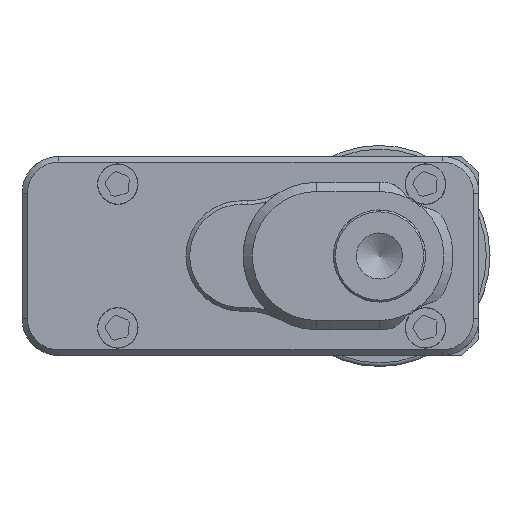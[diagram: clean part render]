
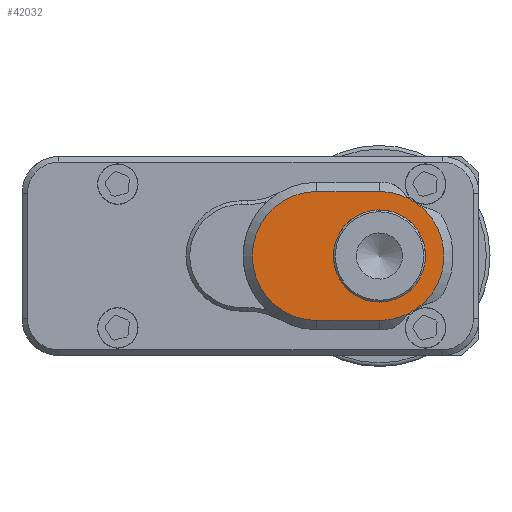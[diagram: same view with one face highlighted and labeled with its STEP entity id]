
A CAD part, front view. The second image highlights one B-rep face of the part: STEP entity #42032.
In plain terms, the highlighted planar face has unit normal (0, -1, 0).
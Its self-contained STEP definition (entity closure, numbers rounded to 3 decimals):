
#832 = CARTESIAN_POINT ( 'NONE',  ( 8.68, -13.6, -3.07 ) ) ;
#1598 = CARTESIAN_POINT ( 'NONE',  ( 7., -13.6, -3.5 ) ) ;
#2176 = VECTOR ( 'NONE', #18946, 1000. ) ;
#2962 = AXIS2_PLACEMENT_3D ( 'NONE', #26132, #22062, #39920 ) ;
#3370 = CARTESIAN_POINT ( 'NONE',  ( 9.089, -13.6, -2.808 ) ) ;
#3400 = LINE ( 'NONE', #37129, #39479 ) ;
#3536 = DIRECTION ( 'NONE',  ( 0., -1., 0. ) ) ;
#3788 = AXIS2_PLACEMENT_3D ( 'NONE', #40095, #27189, #9087 ) ;
#3826 = DIRECTION ( 'NONE',  ( 0., -1., 0. ) ) ;
#4204 = DIRECTION ( 'NONE',  ( 0., 0., 1. ) ) ;
#4464 = CARTESIAN_POINT ( 'NONE',  ( 3.6, -13.6, 3.5 ) ) ;
#4948 = AXIS2_PLACEMENT_3D ( 'NONE', #28392, #11641, #42175 ) ;
#5074 = ORIENTED_EDGE ( 'NONE', *, *, #17045, .T. ) ;
#5149 = CARTESIAN_POINT ( 'NONE',  ( 3.6, -13.6, 3.5 ) ) ;
#6283 = VERTEX_POINT ( 'NONE', #832 ) ;
#6343 = EDGE_LOOP ( 'NONE', ( #38590, #5074, #29555, #18157, #38045, #10866, #6662, #12478 ) ) ;
#6357 = DIRECTION ( 'NONE',  ( 1., 0., 0. ) ) ;
#6662 = ORIENTED_EDGE ( 'NONE', *, *, #6908, .T. ) ;
#6739 = CARTESIAN_POINT ( 'NONE',  ( 10.633, -13.6, -5.668 ) ) ;
#6872 = AXIS2_PLACEMENT_3D ( 'NONE', #10598, #3826, #41813 ) ;
#6908 = EDGE_CURVE ( 'NONE', #17867, #29491, #3400, .T. ) ;
#6931 = PLANE ( 'NONE',  #32618 ) ;
#7482 = VERTEX_POINT ( 'NONE', #4464 ) ;
#9087 = DIRECTION ( 'NONE',  ( 0., 0., 1. ) ) ;
#10191 = ORIENTED_EDGE ( 'NONE', *, *, #25438, .F. ) ;
#10310 = CARTESIAN_POINT ( 'NONE',  ( 9.089, -13.6, 2.808 ) ) ;
#10598 = CARTESIAN_POINT ( 'NONE',  ( 7., -13.6, 0. ) ) ;
#10866 = ORIENTED_EDGE ( 'NONE', *, *, #31291, .T. ) ;
#11641 = DIRECTION ( 'NONE',  ( 0., -1., 0. ) ) ;
#12173 = CIRCLE ( 'NONE', #4948, 2.5 ) ;
#12189 = CIRCLE ( 'NONE', #41791, 3.25 ) ;
#12450 = CIRCLE ( 'NONE', #3788, 3.25 ) ;
#12478 = ORIENTED_EDGE ( 'NONE', *, *, #42184, .T. ) ;
#13345 = CIRCLE ( 'NONE', #6872, 3.5 ) ;
#13854 = VERTEX_POINT ( 'NONE', #3370 ) ;
#14616 = FACE_BOUND ( 'NONE', #17028, .T. ) ;
#17028 = EDGE_LOOP ( 'NONE', ( #10191 ) ) ;
#17045 = EDGE_CURVE ( 'NONE', #13854, #39886, #13345, .T. ) ;
#17108 = FACE_OUTER_BOUND ( 'NONE', #6343, .T. ) ;
#17337 = CARTESIAN_POINT ( 'NONE',  ( 7., -13.6, 0. ) ) ;
#17344 = CARTESIAN_POINT ( 'NONE',  ( 7., -13.6, 0. ) ) ;
#17867 = VERTEX_POINT ( 'NONE', #19240 ) ;
#18157 = ORIENTED_EDGE ( 'NONE', *, *, #36232, .T. ) ;
#18453 = DIRECTION ( 'NONE',  ( 0., 0., 1. ) ) ;
#18946 = DIRECTION ( 'NONE',  ( -1., 0., 0. ) ) ;
#19240 = CARTESIAN_POINT ( 'NONE',  ( 3.6, -13.6, -3.5 ) ) ;
#19541 = EDGE_CURVE ( 'NONE', #6283, #13854, #12189, .T. ) ;
#20322 = DIRECTION ( 'NONE',  ( 0., 1., 0. ) ) ;
#20562 = VERTEX_POINT ( 'NONE', #26588 ) ;
#20729 = DIRECTION ( 'NONE',  ( 0., -1., 0. ) ) ;
#20732 = CARTESIAN_POINT ( 'NONE',  ( 3.6, -13.6, 0. ) ) ;
#22062 = DIRECTION ( 'NONE',  ( 0., -1., 0. ) ) ;
#24522 = CIRCLE ( 'NONE', #38243, 3.5 ) ;
#25438 = EDGE_CURVE ( 'NONE', #33024, #33024, #12173, .T. ) ;
#25730 = LINE ( 'NONE', #5149, #2176 ) ;
#25851 = CIRCLE ( 'NONE', #29446, 3.5 ) ;
#26132 = CARTESIAN_POINT ( 'NONE',  ( 7., -13.6, 0. ) ) ;
#26428 = DIRECTION ( 'NONE',  ( 0., 0., -1. ) ) ;
#26588 = CARTESIAN_POINT ( 'NONE',  ( 8.68, -13.6, 3.07 ) ) ;
#27189 = DIRECTION ( 'NONE',  ( 0., -1., 0. ) ) ;
#27956 = DIRECTION ( 'NONE',  ( 0., -1., 0. ) ) ;
#28392 = CARTESIAN_POINT ( 'NONE',  ( 7., -13.6, 0. ) ) ;
#29290 = CARTESIAN_POINT ( 'NONE',  ( 7., -13.6, 3.5 ) ) ;
#29384 = CARTESIAN_POINT ( 'NONE',  ( 7., -13.6, 2.5 ) ) ;
#29446 = AXIS2_PLACEMENT_3D ( 'NONE', #20732, #3536, #18453 ) ;
#29491 = VERTEX_POINT ( 'NONE', #1598 ) ;
#29555 = ORIENTED_EDGE ( 'NONE', *, *, #43791, .F. ) ;
#30413 = VERTEX_POINT ( 'NONE', #29290 ) ;
#31291 = EDGE_CURVE ( 'NONE', #7482, #17867, #25851, .T. ) ;
#31568 = DIRECTION ( 'NONE',  ( 0., 0., 1. ) ) ;
#32618 = AXIS2_PLACEMENT_3D ( 'NONE', #17337, #20729, #31568 ) ;
#33024 = VERTEX_POINT ( 'NONE', #29384 ) ;
#34766 = EDGE_CURVE ( 'NONE', #30413, #7482, #25730, .T. ) ;
#36232 = EDGE_CURVE ( 'NONE', #20562, #30413, #24522, .T. ) ;
#37129 = CARTESIAN_POINT ( 'NONE',  ( 7., -13.6, -3.5 ) ) ;
#38045 = ORIENTED_EDGE ( 'NONE', *, *, #34766, .T. ) ;
#38243 = AXIS2_PLACEMENT_3D ( 'NONE', #17344, #27956, #4204 ) ;
#38359 = CIRCLE ( 'NONE', #2962, 3.5 ) ;
#38590 = ORIENTED_EDGE ( 'NONE', *, *, #19541, .T. ) ;
#39479 = VECTOR ( 'NONE', #6357, 1000. ) ;
#39886 = VERTEX_POINT ( 'NONE', #10310 ) ;
#39920 = DIRECTION ( 'NONE',  ( 0., 0., 1. ) ) ;
#40095 = CARTESIAN_POINT ( 'NONE',  ( 10.633, -13.6, 5.668 ) ) ;
#41791 = AXIS2_PLACEMENT_3D ( 'NONE', #6739, #20322, #26428 ) ;
#41813 = DIRECTION ( 'NONE',  ( 0., 0., 1. ) ) ;
#42032 = ADVANCED_FACE ( 'NONE', ( #17108, #14616 ), #6931, .T. ) ;
#42175 = DIRECTION ( 'NONE',  ( 0., 0., 1. ) ) ;
#42184 = EDGE_CURVE ( 'NONE', #29491, #6283, #38359, .T. ) ;
#43791 = EDGE_CURVE ( 'NONE', #20562, #39886, #12450, .T. ) ;
